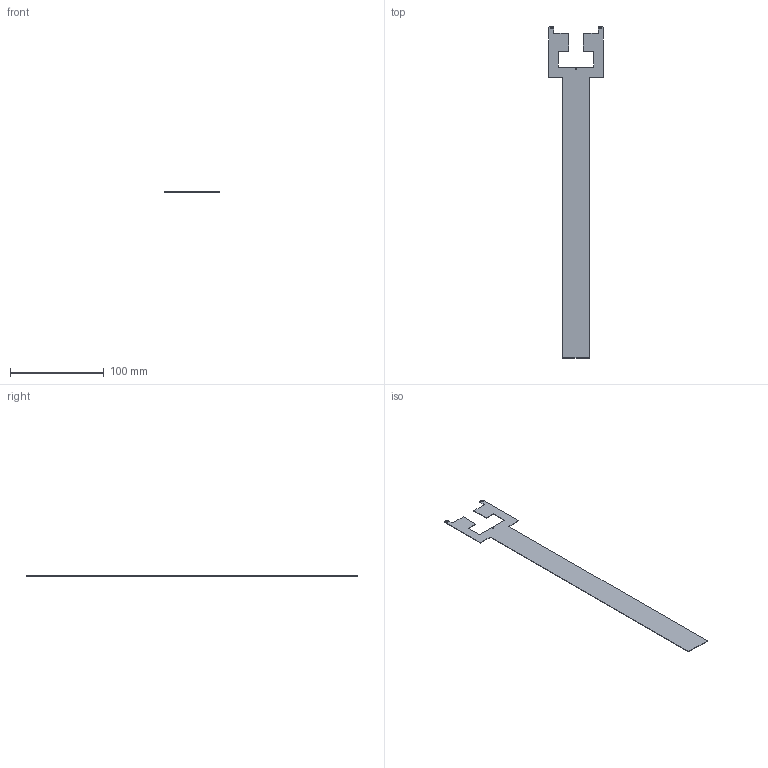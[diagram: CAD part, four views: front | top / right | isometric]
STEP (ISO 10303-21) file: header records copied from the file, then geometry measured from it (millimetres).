
FILE_DESCRIPTION(('FreeCAD Model'),'2;1');
FILE_NAME('Open CASCADE Shape Model','2025-06-09T11:53:07',(''),(''), 'Open CASCADE STEP processor 7.6','FreeCAD','Unknown');
FILE_SCHEMA(('CONFIG_CONTROL_DESIGN','SHAPE_APPEARANCE_LAYER_MIM'));
Length unit declared in the file: millimetre
Products named in the file (1): SmallCCDFlex
Bounding box: 58 x 355 x 0.5 mm (x, y, z)
Volume: 5121.3 mm3; surface area: 20971.7 mm2
Topology: 1 solids, 1 shells, 29 faces, 81 edges, 54 vertices
Faces by surface type: plane 22, cylinder 7
Full cylindrical faces by diameter (mm): 1.1 x1, 2.4 x2
Entity records: 993 total; most frequent: CARTESIAN_POINT 165, ORIENTED_EDGE 162, DIRECTION 155, EDGE_CURVE 81, LINE 67, VECTOR 67, VERTEX_POINT 54, AXIS2_PLACEMENT_3D 44
